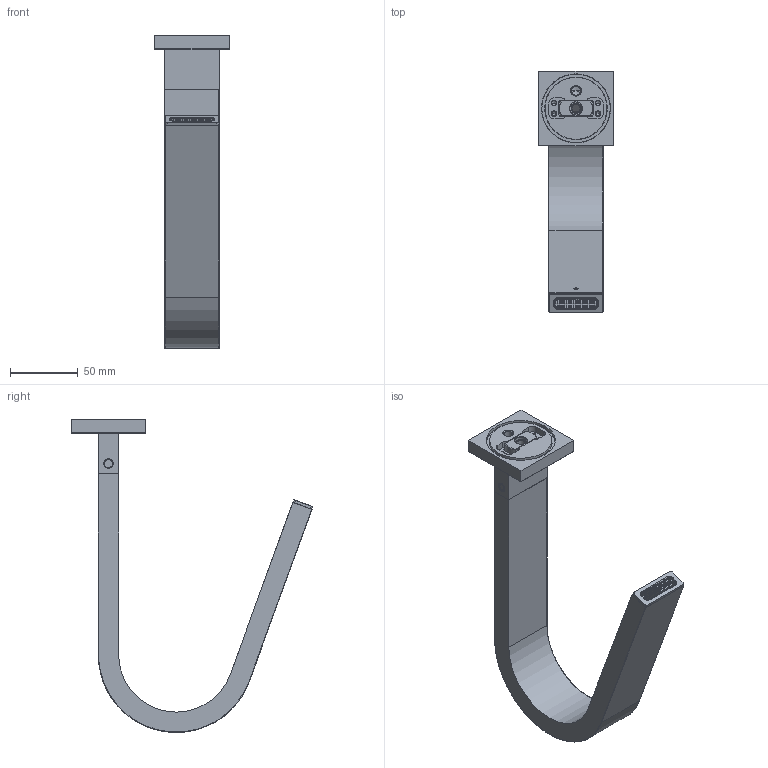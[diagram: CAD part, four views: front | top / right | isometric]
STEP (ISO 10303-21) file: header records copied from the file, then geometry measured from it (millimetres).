
FILE_DESCRIPTION (( 'STEP AP203' ), '1' );
FILE_NAME ('C4T1.STEP', '2016-12-14T08:47:26', ( '' ), ( '' ), 'SwSTEP 2.0', 'SolidWorks 2014', '' );
FILE_SCHEMA (( 'CONFIG_CONTROL_DESIGN' ));
Length unit declared in the file: millimetre
Products named in the file (16): SPINA ELASTICA Ø3x8; EU0117_0; GRANO M5x6; OR 9 X 2; EU0205_0; OR7.65x1.78; 02328000002; C4T1; EU0116_3; EU008_01; EU0040_3; GRANO M3 X 6; EU0107_3; EU0067_00; TAPPHITO01; EU0039_0
Assembly tree (17 placements, depth 4):
  C4T1
    EU0039_0
    EU0117_0
    SPINA ELASTICA Ø3x8  x2
    EU0205_0
    OR7.65x1.78
    OR 9 X 2
    EU008_01
      EU0116_3
      EU0067_00
        EU0107_3
        02328000002
        EU0040_3  x2
      GRANO M3 X 6
    TAPPHITO01
    GRANO M5x6
Bounding box: 55 x 178.3 x 230.9 mm (x, y, z)
Volume: 122737.2 mm3; surface area: 124591.4 mm2
Topology: 16 solids, 16 shells, 1402 faces, 3867 edges, 2468 vertices
Faces by surface type: plane 646, cylinder 554, cone 90, torus 68, bspline 34, sphere 10
Entity records: 46942 total; most frequent: CARTESIAN_POINT 9134, DIRECTION 7513, ORIENTED_EDGE 7432, EDGE_CURVE 3716, AXIS2_PLACEMENT_3D 2575, VERTEX_POINT 2386, LINE 2363, VECTOR 2363
